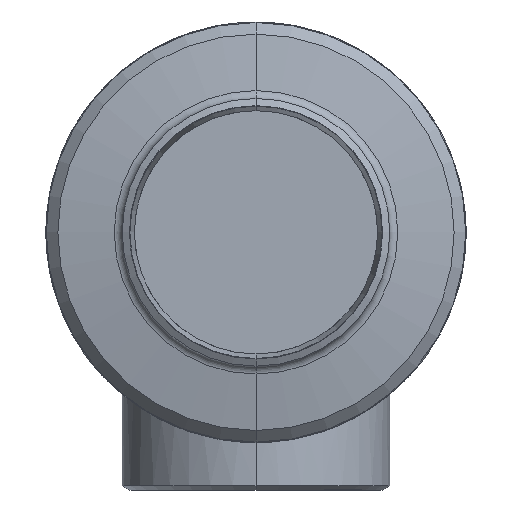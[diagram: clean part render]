
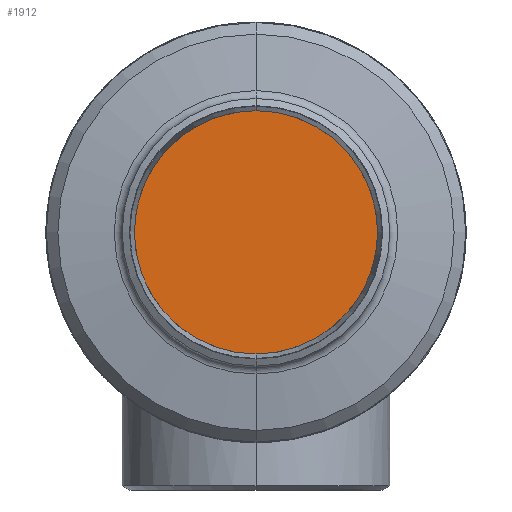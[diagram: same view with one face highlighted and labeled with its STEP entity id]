
A CAD part, front view. The second image highlights one B-rep face of the part: STEP entity #1912.
In plain terms, the highlighted planar face has unit normal (0, -1, 0) as drawn and (0, 0, 1) by its records, which use the part's own axes.
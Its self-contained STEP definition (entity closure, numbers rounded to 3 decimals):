
#122 = ORIENTED_EDGE ( 'NONE', *, *, #1265, .T. ) ;
#434 = VERTEX_POINT ( 'NONE', #3205 ) ;
#1058 = VERTEX_POINT ( 'NONE', #3419 ) ;
#1214 = ORIENTED_EDGE ( 'NONE', *, *, #3230, .T. ) ;
#1227 = CIRCLE ( 'NONE', #1228, 70. ) ;
#1228 = AXIS2_PLACEMENT_3D ( 'NONE', #1229, #1230, #1231 ) ;
#1229 = CARTESIAN_POINT ( 'NONE',  ( 0., 0., 14. ) ) ;
#1230 = DIRECTION ( 'NONE',  ( 0., 0., 1. ) ) ;
#1231 = DIRECTION ( 'NONE',  ( 1., 0., 0. ) ) ;
#1265 = EDGE_CURVE ( 'NONE', #1058, #434, #3726, .T. ) ;
#1690 = EDGE_LOOP ( 'NONE', ( #1214, #122 ) ) ;
#1912 = ADVANCED_FACE ( 'NONE', ( #4339 ), #4340, .T. ) ;
#3205 = CARTESIAN_POINT ( 'NONE',  ( -70., 0., 14. ) ) ;
#3230 = EDGE_CURVE ( 'NONE', #434, #1058, #1227, .T. ) ;
#3419 = CARTESIAN_POINT ( 'NONE',  ( 70., 0., 14. ) ) ;
#3726 = CIRCLE ( 'NONE', #3727, 70. ) ;
#3727 = AXIS2_PLACEMENT_3D ( 'NONE', #3728, #3729, #3730 ) ;
#3728 = CARTESIAN_POINT ( 'NONE',  ( 0., 0., 14. ) ) ;
#3729 = DIRECTION ( 'NONE',  ( 0., 0., 1. ) ) ;
#3730 = DIRECTION ( 'NONE',  ( 1., 0., 0. ) ) ;
#4339 = FACE_OUTER_BOUND ( 'NONE', #1690, .T. ) ;
#4340 = PLANE ( 'NONE',  #4341 ) ;
#4341 = AXIS2_PLACEMENT_3D ( 'NONE', #4342, #4343, #4344 ) ;
#4342 = CARTESIAN_POINT ( 'NONE',  ( 0., 0., 14. ) ) ;
#4343 = DIRECTION ( 'NONE',  ( 0., 0., 1. ) ) ;
#4344 = DIRECTION ( 'NONE',  ( 1., 0., 0. ) ) ;
